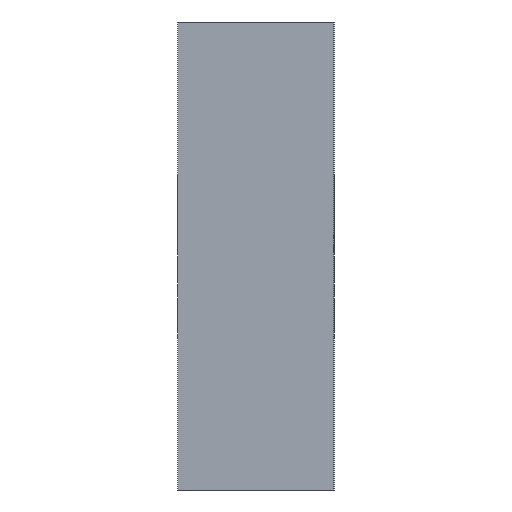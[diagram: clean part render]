
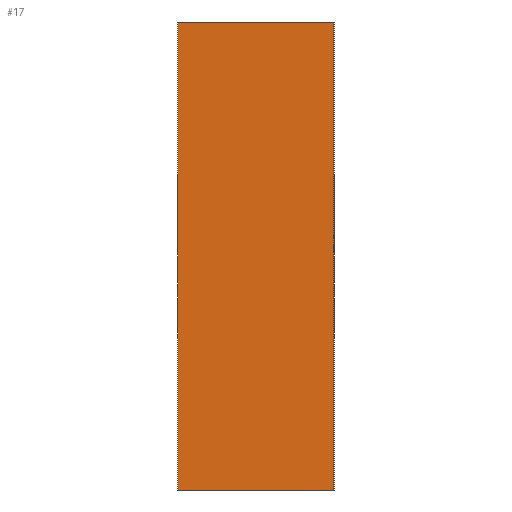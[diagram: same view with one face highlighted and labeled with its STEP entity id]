
A CAD part, left-side view. The second image highlights one B-rep face of the part: STEP entity #17.
In plain terms, the highlighted planar face has unit normal (-1, 0, 0).
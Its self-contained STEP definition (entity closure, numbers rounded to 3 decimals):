
#17 = ADVANCED_FACE('',(#18),#32,.F.);
#18 = FACE_BOUND('',#19,.F.);
#19 = EDGE_LOOP('',(#20,#55,#83,#111));
#20 = ORIENTED_EDGE('',*,*,#21,.F.);
#21 = EDGE_CURVE('',#22,#24,#26,.T.);
#22 = VERTEX_POINT('',#23);
#23 = CARTESIAN_POINT('',(-16.,-14.,-6.));
#24 = VERTEX_POINT('',#25);
#25 = CARTESIAN_POINT('',(-16.,-14.,6.));
#26 = SURFACE_CURVE('',#27,(#31,#43),.PCURVE_S1.);
#27 = LINE('',#28,#29);
#28 = CARTESIAN_POINT('',(-16.,-14.,-6.));
#29 = VECTOR('',#30,1.);
#30 = DIRECTION('',(0.,0.,1.));
#31 = PCURVE('',#32,#37);
#32 = PLANE('',#33);
#33 = AXIS2_PLACEMENT_3D('',#34,#35,#36);
#34 = CARTESIAN_POINT('',(-16.,-14.,-6.));
#35 = DIRECTION('',(1.,0.,0.));
#36 = DIRECTION('',(0.,0.,1.));
#37 = DEFINITIONAL_REPRESENTATION('',(#38),#42);
#38 = LINE('',#39,#40);
#39 = CARTESIAN_POINT('',(0.,0.));
#40 = VECTOR('',#41,1.);
#41 = DIRECTION('',(1.,0.));
#42 = ( GEOMETRIC_REPRESENTATION_CONTEXT(2)
PARAMETRIC_REPRESENTATION_CONTEXT() REPRESENTATION_CONTEXT('2D SPACE',''
  ) );
#43 = PCURVE('',#44,#49);
#44 = PLANE('',#45);
#45 = AXIS2_PLACEMENT_3D('',#46,#47,#48);
#46 = CARTESIAN_POINT('',(-16.,-14.,-6.));
#47 = DIRECTION('',(0.,1.,0.));
#48 = DIRECTION('',(0.,0.,1.));
#49 = DEFINITIONAL_REPRESENTATION('',(#50),#54);
#50 = LINE('',#51,#52);
#51 = CARTESIAN_POINT('',(0.,0.));
#52 = VECTOR('',#53,1.);
#53 = DIRECTION('',(1.,0.));
#54 = ( GEOMETRIC_REPRESENTATION_CONTEXT(2)
PARAMETRIC_REPRESENTATION_CONTEXT() REPRESENTATION_CONTEXT('2D SPACE',''
  ) );
#55 = ORIENTED_EDGE('',*,*,#56,.T.);
#56 = EDGE_CURVE('',#22,#57,#59,.T.);
#57 = VERTEX_POINT('',#58);
#58 = CARTESIAN_POINT('',(-16.,-10.,-6.));
#59 = SURFACE_CURVE('',#60,(#64,#71),.PCURVE_S1.);
#60 = LINE('',#61,#62);
#61 = CARTESIAN_POINT('',(-16.,-14.,-6.));
#62 = VECTOR('',#63,1.);
#63 = DIRECTION('',(0.,1.,0.));
#64 = PCURVE('',#32,#65);
#65 = DEFINITIONAL_REPRESENTATION('',(#66),#70);
#66 = LINE('',#67,#68);
#67 = CARTESIAN_POINT('',(0.,0.));
#68 = VECTOR('',#69,1.);
#69 = DIRECTION('',(0.,-1.));
#70 = ( GEOMETRIC_REPRESENTATION_CONTEXT(2)
PARAMETRIC_REPRESENTATION_CONTEXT() REPRESENTATION_CONTEXT('2D SPACE',''
  ) );
#71 = PCURVE('',#72,#77);
#72 = PLANE('',#73);
#73 = AXIS2_PLACEMENT_3D('',#74,#75,#76);
#74 = CARTESIAN_POINT('',(-16.,-14.,-6.));
#75 = DIRECTION('',(0.,0.,1.));
#76 = DIRECTION('',(1.,0.,0.));
#77 = DEFINITIONAL_REPRESENTATION('',(#78),#82);
#78 = LINE('',#79,#80);
#79 = CARTESIAN_POINT('',(0.,0.));
#80 = VECTOR('',#81,1.);
#81 = DIRECTION('',(0.,1.));
#82 = ( GEOMETRIC_REPRESENTATION_CONTEXT(2)
PARAMETRIC_REPRESENTATION_CONTEXT() REPRESENTATION_CONTEXT('2D SPACE',''
  ) );
#83 = ORIENTED_EDGE('',*,*,#84,.T.);
#84 = EDGE_CURVE('',#57,#85,#87,.T.);
#85 = VERTEX_POINT('',#86);
#86 = CARTESIAN_POINT('',(-16.,-10.,6.));
#87 = SURFACE_CURVE('',#88,(#92,#99),.PCURVE_S1.);
#88 = LINE('',#89,#90);
#89 = CARTESIAN_POINT('',(-16.,-10.,-6.));
#90 = VECTOR('',#91,1.);
#91 = DIRECTION('',(0.,0.,1.));
#92 = PCURVE('',#32,#93);
#93 = DEFINITIONAL_REPRESENTATION('',(#94),#98);
#94 = LINE('',#95,#96);
#95 = CARTESIAN_POINT('',(0.,-4.));
#96 = VECTOR('',#97,1.);
#97 = DIRECTION('',(1.,0.));
#98 = ( GEOMETRIC_REPRESENTATION_CONTEXT(2)
PARAMETRIC_REPRESENTATION_CONTEXT() REPRESENTATION_CONTEXT('2D SPACE',''
  ) );
#99 = PCURVE('',#100,#105);
#100 = PLANE('',#101);
#101 = AXIS2_PLACEMENT_3D('',#102,#103,#104);
#102 = CARTESIAN_POINT('',(-16.,-10.,-6.));
#103 = DIRECTION('',(0.,1.,0.));
#104 = DIRECTION('',(0.,0.,1.));
#105 = DEFINITIONAL_REPRESENTATION('',(#106),#110);
#106 = LINE('',#107,#108);
#107 = CARTESIAN_POINT('',(0.,0.));
#108 = VECTOR('',#109,1.);
#109 = DIRECTION('',(1.,0.));
#110 = ( GEOMETRIC_REPRESENTATION_CONTEXT(2)
PARAMETRIC_REPRESENTATION_CONTEXT() REPRESENTATION_CONTEXT('2D SPACE',''
  ) );
#111 = ORIENTED_EDGE('',*,*,#112,.F.);
#112 = EDGE_CURVE('',#24,#85,#113,.T.);
#113 = SURFACE_CURVE('',#114,(#118,#125),.PCURVE_S1.);
#114 = LINE('',#115,#116);
#115 = CARTESIAN_POINT('',(-16.,-14.,6.));
#116 = VECTOR('',#117,1.);
#117 = DIRECTION('',(0.,1.,0.));
#118 = PCURVE('',#32,#119);
#119 = DEFINITIONAL_REPRESENTATION('',(#120),#124);
#120 = LINE('',#121,#122);
#121 = CARTESIAN_POINT('',(12.,0.));
#122 = VECTOR('',#123,1.);
#123 = DIRECTION('',(0.,-1.));
#124 = ( GEOMETRIC_REPRESENTATION_CONTEXT(2)
PARAMETRIC_REPRESENTATION_CONTEXT() REPRESENTATION_CONTEXT('2D SPACE',''
  ) );
#125 = PCURVE('',#126,#131);
#126 = PLANE('',#127);
#127 = AXIS2_PLACEMENT_3D('',#128,#129,#130);
#128 = CARTESIAN_POINT('',(-16.,-14.,6.));
#129 = DIRECTION('',(0.,0.,1.));
#130 = DIRECTION('',(1.,0.,0.));
#131 = DEFINITIONAL_REPRESENTATION('',(#132),#136);
#132 = LINE('',#133,#134);
#133 = CARTESIAN_POINT('',(0.,0.));
#134 = VECTOR('',#135,1.);
#135 = DIRECTION('',(0.,1.));
#136 = ( GEOMETRIC_REPRESENTATION_CONTEXT(2)
PARAMETRIC_REPRESENTATION_CONTEXT() REPRESENTATION_CONTEXT('2D SPACE',''
  ) );
